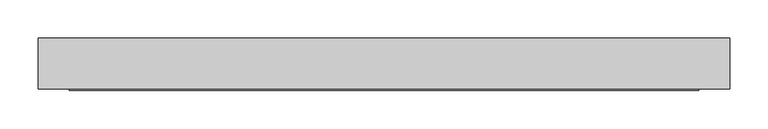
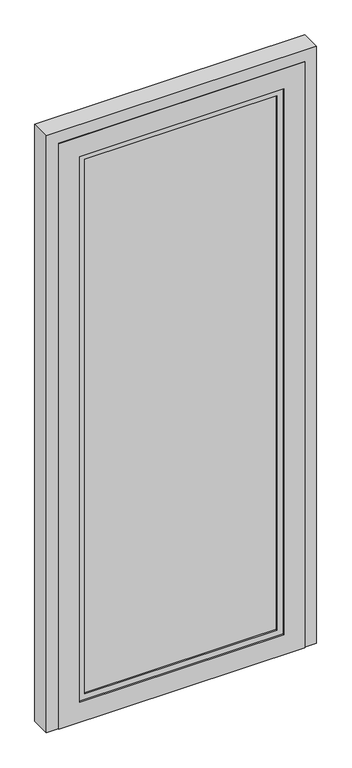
"""IFC4 building model written with IfcOpenShell, lengths in millimetres: plate geometry, ARQ-PA-IN-AluVid-Puerta : ARQ-PA-IN-AluVid-Puerta."""

import ifcopenshell
import ifcopenshell.guid

model = None  # the IFC model being written
_history = None  # IfcOwnerHistory: only IFC2X3 demands one
_inside = {}  # id of a spatial element -> (the spatial element, [elements in it])
_under = {}  # id of a project, library or spatial element -> (it, [spatial elements below it])
_declared = {}  # id of a project -> (the project, [libraries it declares])
_typed = {}  # id of a type object -> (the type object, [elements of that type])
_made_of = {}  # id of a material, layer set ... -> (it, [elements and type objects made of it])


def new_model(schema):
    """Start an empty IFC model of exactly this schema.

    Asked for "IFC4X3", IfcOpenShell would pick the latest addendum, in which some entities
    have other attributes; the version numbers below select the first issue.
    IFC2X3 requires an IfcOwnerHistory on every rooted entity: one is made here for all.
    """
    global model, _history
    if schema == "IFC4X3":
        model = ifcopenshell.file(schema_version=(4, 3, 0, 0))
    else:
        model = ifcopenshell.file(schema=schema)
    _inside.clear()
    _under.clear()
    _declared.clear()
    _typed.clear()
    _made_of.clear()
    _history = None
    if model.schema == "IFC2X3":
        org = make("IfcOrganization", Name="unknown")
        user = make(
            "IfcPersonAndOrganization",
            ThePerson=make("IfcPerson", FamilyName="unknown"),
            TheOrganization=org,
        )
        app = make(
            "IfcApplication",
            ApplicationDeveloper=org,
            Version="unknown",
            ApplicationFullName="unknown",
            ApplicationIdentifier="unknown",
        )
        _history = make(
            "IfcOwnerHistory",
            OwningUser=user,
            OwningApplication=app,
            ChangeAction="ADDED",
            CreationDate=0,
        )
    return model


def make(cls, **values):
    """One entity of the class cls with the attributes given. An attribute that is None is left unset."""
    return model.create_entity(
        cls, **{name: value for name, value in values.items() if value is not None}
    )


def rooted(cls, **values):
    """An entity with a GlobalId (a new one), such as an element, a storey or a relation."""
    return make(cls, GlobalId=ifcopenshell.guid.new(), OwnerHistory=_history, **values)


def si_unit(unit_type, name, prefix=None):
    """IfcSIUnit, for example si_unit("LENGTHUNIT", "METRE", prefix="MILLI")."""
    return make("IfcSIUnit", UnitType=unit_type, Prefix=prefix, Name=name)


def assignment(units):
    """IfcUnitAssignment: the units of a project."""
    return None if units is None else make("IfcUnitAssignment", Units=units)


def point(xyz):
    """IfcCartesianPoint."""
    return None if xyz is None else make("IfcCartesianPoint", Coordinates=xyz)


def direction(xyz):
    """IfcDirection."""
    return None if xyz is None else make("IfcDirection", DirectionRatios=xyz)


def frame(location, z_axis=None, x_axis=None):
    """IfcAxis2Placement3D, a coordinate frame: its origin and axes. An axis left out is left unset."""
    return make(
        "IfcAxis2Placement3D",
        Location=point(location),
        Axis=direction(z_axis),
        RefDirection=direction(x_axis),
    )


def origin():
    """The frame at (0, 0, 0) with its axes left unset."""
    return frame((0.0, 0.0, 0.0))


def place(relative_to, where):
    """IfcLocalPlacement: puts the frame where relative to a parent placement (None: the world)."""
    return make(
        "IfcLocalPlacement", PlacementRelTo=relative_to, RelativePlacement=where
    )


def context(
    kind, dimensions, precision=None, world=None, true_north=None, identifier=None
):
    """IfcGeometricRepresentationContext, for example the 3D "Model" context."""
    return make(
        "IfcGeometricRepresentationContext",
        ContextIdentifier=identifier,
        ContextType=kind,
        CoordinateSpaceDimension=dimensions,
        Precision=precision,
        WorldCoordinateSystem=world,
        TrueNorth=true_north,
    )


def project(units=None, contexts=None):
    """IfcProject with its units and contexts."""
    return rooted(
        "IfcProject",
        Name="project",
        RepresentationContexts=contexts,
        UnitsInContext=assignment(units),
    )


def spatial(cls, under=None, at=None, **own):
    """A site, building, storey or space (cls), placed at a placement, below another one or the project."""
    s = rooted(cls, ObjectPlacement=at, **own)
    if under is not None:
        _under.setdefault(under.id(), (under, []))[1].append(s)
    return s


def polyline(points):
    """IfcPolyline through the points."""
    return make("IfcPolyline", Points=[point(p) for p in points])


def outline(outer, holes=None, kind="AREA"):
    """IfcArbitraryClosedProfileDef: a profile drawn as a closed curve; with holes, ...WithVoids."""
    if holes is None:
        return make("IfcArbitraryClosedProfileDef", ProfileType=kind, OuterCurve=outer)
    return make(
        "IfcArbitraryProfileDefWithVoids",
        ProfileType=kind,
        OuterCurve=outer,
        InnerCurves=holes,
    )


def extrude(swept, where, along, depth):
    """IfcExtrudedAreaSolid: the profile swept, set in the frame where, extruded along a direction by depth."""
    return make(
        "IfcExtrudedAreaSolid",
        SweptArea=swept,
        Position=where,
        ExtrudedDirection=direction(along),
        Depth=depth,
    )


def shape(context_of_items, identifier, shape_type, items):
    """IfcShapeRepresentation: the items that make up one representation, for example the "Body"."""
    return make(
        "IfcShapeRepresentation",
        ContextOfItems=context_of_items,
        RepresentationIdentifier=identifier,
        RepresentationType=shape_type,
        Items=items,
    )


def source(mapping_origin, context_of_items, identifier, shape_type, items):
    """IfcRepresentationMap: a shape defined once, which mapped items show again and again."""
    return make(
        "IfcRepresentationMap",
        MappingOrigin=mapping_origin,
        MappedRepresentation=shape(context_of_items, identifier, shape_type, items),
    )


def transform(
    local_origin,
    x_axis=None,
    y_axis=None,
    z_axis=None,
    scale=None,
    scale2=None,
    scale3=None,
    uniform=True,
):
    """IfcCartesianTransformationOperator3D, or its non-uniform kind. x_axis, y_axis, z_axis: its Axis1, 2, 3."""
    if uniform:
        return make(
            "IfcCartesianTransformationOperator3D",
            Axis1=direction(x_axis),
            Axis2=direction(y_axis),
            LocalOrigin=point(local_origin),
            Scale=scale,
            Axis3=direction(z_axis),
        )
    return make(
        "IfcCartesianTransformationOperator3DnonUniform",
        Axis1=direction(x_axis),
        Axis2=direction(y_axis),
        LocalOrigin=point(local_origin),
        Scale=scale,
        Axis3=direction(z_axis),
        Scale2=scale2,
        Scale3=scale3,
    )


def mapped(mapping_source, mapping_target):
    """IfcMappedItem: shows the shape of a source again, moved by a transform."""
    return make(
        "IfcMappedItem", MappingSource=mapping_source, MappingTarget=mapping_target
    )


def made_of(thing, what):
    """Note that an element or type object is made of a material, layer set ...; save() writes the relation."""
    if what is not None:
        _made_of.setdefault(what.id(), (what, []))[1].append(thing)
    return thing


def element(
    cls,
    number,
    at=None,
    inside=None,
    cuts=None,
    type_object=None,
    material=None,
    context=None,
    identifier="Body",
    shape_type=None,
    held_by="IfcProductDefinitionShape",
    body=None,
    shapes=None,
    **own,
):
    """One element of the class cls, such as IfcWall. Its Tag is "e" and its number.

    at: its placement. inside: the storey or other place that contains it. cuts: it is an
    opening in that element (IfcRelVoidsElement). A single representation is given by context,
    identifier, shape_type and body (its items); several are given by shapes. held_by: the class
    of the entity that holds the representations. save() writes the other relations.
    """
    e = rooted(cls, Tag="e%d" % number, ObjectPlacement=at, **own)
    if body is not None:
        shapes = [shape(context, identifier, shape_type, body)]
    if shapes is not None:
        e.Representation = make(held_by, Representations=shapes)
    if inside is not None:
        _inside.setdefault(inside.id(), (inside, []))[1].append(e)
    if cuts is not None:
        rooted(
            "IfcRelVoidsElement", RelatingBuildingElement=cuts, RelatedOpeningElement=e
        )
    if type_object is not None:
        _typed.setdefault(type_object.id(), (type_object, []))[1].append(e)
    return made_of(e, material)


def aggregate(whole, parts):
    """IfcRelAggregates: a whole, such as a stair, and the parts it consists of."""
    return rooted("IfcRelAggregates", RelatingObject=whole, RelatedObjects=parts)


def save(model, path):
    """Write the relations noted so far, then the file.

    IfcRelAggregates (storeys below a building ...), IfcRelContainedInSpatialStructure (elements
    in a storey), IfcRelDefinesByType, IfcRelAssociatesMaterial and IfcRelDeclares: one each for
    every whole, place, type object, material and project.
    """
    for whole, parts in _under.values():
        aggregate(whole, parts)
    for where, things in _inside.values():
        rooted(
            "IfcRelContainedInSpatialStructure",
            RelatedElements=things,
            RelatingStructure=where,
        )
    for kind, things in _typed.values():
        rooted("IfcRelDefinesByType", RelatedObjects=things, RelatingType=kind)
    for what, things in _made_of.values():
        rooted("IfcRelAssociatesMaterial", RelatedObjects=things, RelatingMaterial=what)
    for by, libraries in _declared.values():
        rooted("IfcRelDeclares", RelatingContext=by, RelatedDefinitions=libraries)
    model.write(path)


def plate_50fcb6a3(model_context):
    return source(origin(), model_context, "Body", "SweptSolid", [
        extrude(outline(polyline([(2100.0, -450.0), (0.0, -450.0), (0.0, -410.0), (2060.0, -410.0), (2060.0, 410.0), (0.0, 410.0), (0.0, 450.0), (2100.0, 450.0), (2100.0, -450.0)])), frame((0.0, -33.0, 0.0), z_axis=(0.0, 1.0, 0.0), x_axis=(0.0, 0.0, 1.0)), (0.0, 0.0, 1.0), 66.0),
        extrude(outline(polyline([(320.0, -10.0), (320.0, -25.0), (-320.0, -25.0), (-320.0, -10.0), (320.0, -10.0)])), frame((0.0, 0.0, 90.0), z_axis=(0.0, 0.0, 1.0), x_axis=(1.0, 0.0, 0.0)), (0.0, 0.0, 1.0), 1880.0),
        extrude(outline(polyline([(1990.0, -340.0), (70.0, -340.0), (70.0, 340.0), (1990.0, 340.0), (1990.0, -340.0)]), holes=[polyline([(1970.0, -320.0), (1970.0, 320.0), (90.0, 320.0), (90.0, -320.0), (1970.0, -320.0)])]), frame((0.0, -30.0, 0.0), z_axis=(0.0, 1.0, 0.0), x_axis=(0.0, 0.0, 1.0)), (0.0, 0.0, 1.0), 25.0),
        extrude(outline(polyline([(2060.0, -410.0), (0.0, -410.0), (0.0, 410.0), (2060.0, 410.0), (2060.0, -410.0)]), holes=[polyline([(1990.0, -340.0), (1990.0, 340.0), (70.0, 340.0), (70.0, -340.0), (1990.0, -340.0)])]), frame((0.0, -35.0, 0.0), z_axis=(0.0, 1.0, 0.0), x_axis=(0.0, 0.0, 1.0)), (0.0, 0.0, 1.0), 35.0),
    ])


if __name__ == "__main__":
    model = new_model("IFC4")
    model_context = context("Model", 3, world=origin())
    ifc_project = project(units=[si_unit("LENGTHUNIT", "METRE", prefix="MILLI")], contexts=[model_context])
    site = spatial("IfcSite", under=ifc_project)
    building = spatial("IfcBuilding", under=site)
    placement = place(None, origin())
    plate_shape = plate_50fcb6a3(model_context)
    element("IfcPlate", 1, ObjectType="ARQ-PA-IN-AluVid-Puerta : ARQ-PA-IN-AluVid-Puerta", at=placement, inside=building, context=model_context, shape_type="MappedRepresentation", body=[
        mapped(plate_shape, transform((0.0, 0.0, 0.0), x_axis=(1.0, 0.0, 0.0), y_axis=(0.0, 1.0, 0.0), z_axis=(0.0, 0.0, 1.0))),
    ])
    save(model, "model.ifc")
